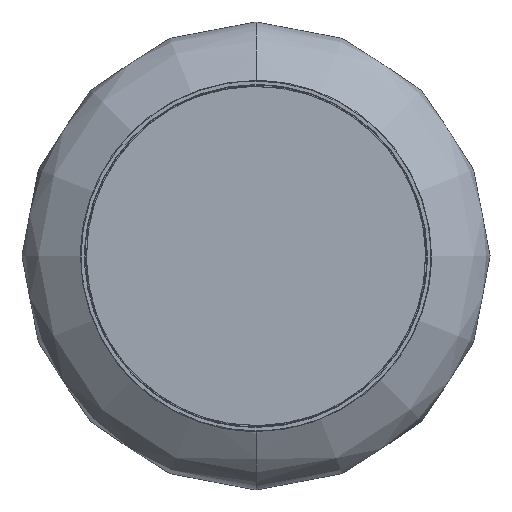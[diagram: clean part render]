
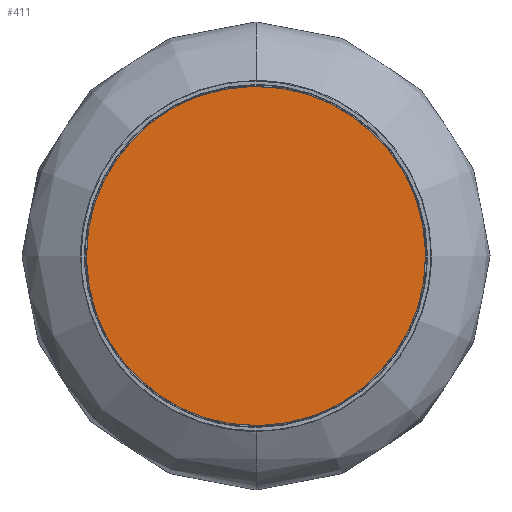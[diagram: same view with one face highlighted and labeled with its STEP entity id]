
A CAD part, front view. The second image highlights one B-rep face of the part: STEP entity #411.
In plain terms, the highlighted planar face has unit normal (0, -1, 0).
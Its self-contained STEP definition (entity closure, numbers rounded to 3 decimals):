
#411=ADVANCED_FACE('',(#628),#3678,.T.);
#628=FACE_OUTER_BOUND('',#860,.T.);
#860=EDGE_LOOP('',(#1987,#1988,#1989,#1990));
#1987=ORIENTED_EDGE('',*,*,#2614,.F.);
#1988=ORIENTED_EDGE('',*,*,#2613,.F.);
#1989=ORIENTED_EDGE('',*,*,#2621,.F.);
#1990=ORIENTED_EDGE('',*,*,#2615,.F.);
#2613=EDGE_CURVE('',#3614,#3615,#3231,.T.);
#2614=EDGE_CURVE('',#3615,#3616,#3232,.T.);
#2615=EDGE_CURVE('',#3616,#3621,#3233,.T.);
#2621=EDGE_CURVE('',#3621,#3614,#3237,.T.);
#3231=(
BOUNDED_CURVE()
B_SPLINE_CURVE(2,(#11467,#11468,#11469),.UNSPECIFIED.,.F.,.F.)
B_SPLINE_CURVE_WITH_KNOTS((3,3),(0.,113.883),.UNSPECIFIED.)
CURVE()
GEOMETRIC_REPRESENTATION_ITEM()
RATIONAL_B_SPLINE_CURVE((1.,0.707,1.))
REPRESENTATION_ITEM('')
);
#3232=(
BOUNDED_CURVE()
B_SPLINE_CURVE(2,(#11470,#11471,#11472),.UNSPECIFIED.,.F.,.F.)
B_SPLINE_CURVE_WITH_KNOTS((3,3),(113.883,227.765),
 .UNSPECIFIED.)
CURVE()
GEOMETRIC_REPRESENTATION_ITEM()
RATIONAL_B_SPLINE_CURVE((1.,0.707,1.))
REPRESENTATION_ITEM('')
);
#3233=(
BOUNDED_CURVE()
B_SPLINE_CURVE(2,(#11473,#11474,#11475),.UNSPECIFIED.,.F.,.F.)
B_SPLINE_CURVE_WITH_KNOTS((3,3),(0.,113.883),.UNSPECIFIED.)
CURVE()
GEOMETRIC_REPRESENTATION_ITEM()
RATIONAL_B_SPLINE_CURVE((1.,0.707,1.))
REPRESENTATION_ITEM('')
);
#3237=(
BOUNDED_CURVE()
B_SPLINE_CURVE(2,(#11489,#11490,#11491),.UNSPECIFIED.,.F.,.F.)
B_SPLINE_CURVE_WITH_KNOTS((3,3),(113.883,227.765),
 .UNSPECIFIED.)
CURVE()
GEOMETRIC_REPRESENTATION_ITEM()
RATIONAL_B_SPLINE_CURVE((1.,0.707,1.))
REPRESENTATION_ITEM('')
);
#3614=VERTEX_POINT('',#11459);
#3615=VERTEX_POINT('',#11460);
#3616=VERTEX_POINT('',#11461);
#3621=VERTEX_POINT('',#11466);
#3678=PLANE('',#4013);
#4013=AXIS2_PLACEMENT_3D('',#11456,#4082,$);
#4082=DIRECTION('',(0.,-1.,0.));
#11456=CARTESIAN_POINT('',(111.663,-120.927,-52.069));
#11459=CARTESIAN_POINT('',(-68.128,-120.927,-24.796));
#11460=CARTESIAN_POINT('',(-24.796,-120.927,68.128));
#11461=CARTESIAN_POINT('',(68.128,-120.927,24.796));
#11466=CARTESIAN_POINT('',(24.796,-120.927,-68.128));
#11467=CARTESIAN_POINT('',(-68.128,-120.927,-24.796));
#11468=CARTESIAN_POINT('',(-92.924,-120.927,43.331));
#11469=CARTESIAN_POINT('',(-24.796,-120.927,68.128));
#11470=CARTESIAN_POINT('',(-24.796,-120.927,68.128));
#11471=CARTESIAN_POINT('',(43.331,-120.927,92.924));
#11472=CARTESIAN_POINT('',(68.128,-120.927,24.796));
#11473=CARTESIAN_POINT('',(68.128,-120.927,24.796));
#11474=CARTESIAN_POINT('',(92.924,-120.927,-43.331));
#11475=CARTESIAN_POINT('',(24.796,-120.927,-68.128));
#11489=CARTESIAN_POINT('',(24.796,-120.927,-68.128));
#11490=CARTESIAN_POINT('',(-43.331,-120.927,-92.924));
#11491=CARTESIAN_POINT('',(-68.128,-120.927,-24.796));
